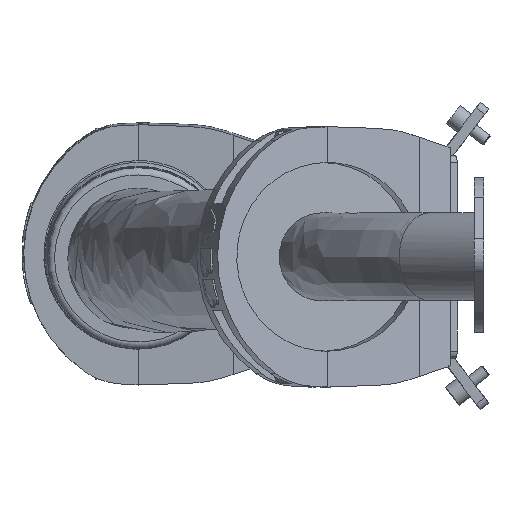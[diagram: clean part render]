
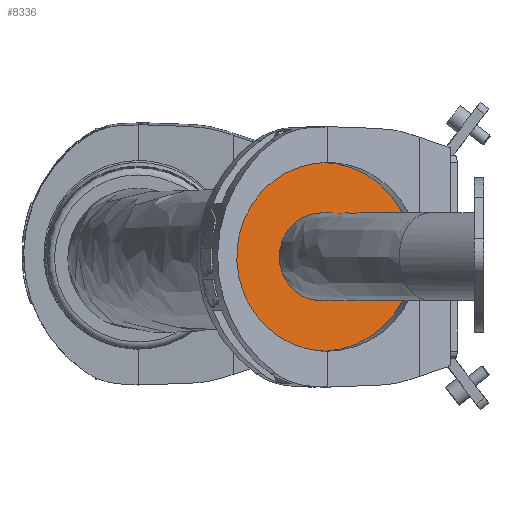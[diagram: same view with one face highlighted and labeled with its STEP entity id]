
A CAD part, left-side view. The second image highlights one B-rep face of the part: STEP entity #8336.
In plain terms, the highlighted planar face has unit normal (-0.966, -0.259, 0).
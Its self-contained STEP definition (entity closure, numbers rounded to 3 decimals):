
#742 = FACE_OUTER_BOUND ( 'NONE', #4382, .T. ) ;
#3249 = CIRCLE ( 'NONE', #4226, 25. ) ;
#4226 = AXIS2_PLACEMENT_3D ( 'NONE', #16318, #14814, #11788 ) ;
#4382 = EDGE_LOOP ( 'NONE', ( #7891 ) ) ;
#5869 = VERTEX_POINT ( 'NONE', #7294 ) ;
#7294 = CARTESIAN_POINT ( 'NONE',  ( 915.325, 154.506, 2203.973 ) ) ;
#7320 = EDGE_CURVE ( 'NONE', #5869, #5869, #3249, .T. ) ;
#7891 = ORIENTED_EDGE ( 'NONE', *, *, #9849, .T. ) ;
#8262 = DIRECTION ( 'NONE',  ( 0.258, -0.964, 0.069 ) ) ;
#8336 = ADVANCED_FACE ( 'NONE', ( #13254, #742 ), #12945, .F. ) ;
#9012 = VERTEX_POINT ( 'NONE', #10923 ) ;
#9849 = EDGE_CURVE ( 'NONE', #9012, #9012, #12166, .T. ) ;
#10010 = DIRECTION ( 'NONE',  ( 0.966, 0.259, 0. ) ) ;
#10779 = CARTESIAN_POINT ( 'NONE',  ( 908.854, 178.654, 2203.973 ) ) ;
#10923 = CARTESIAN_POINT ( 'NONE',  ( 895.015, 230.304, 2200.265 ) ) ;
#11788 = DIRECTION ( 'NONE',  ( 0.259, -0.966, 0. ) ) ;
#11844 = EDGE_LOOP ( 'NONE', ( #17261 ) ) ;
#12166 = CIRCLE ( 'NONE', #17653, 53.6 ) ;
#12945 = PLANE ( 'NONE',  #18179 ) ;
#13254 = FACE_BOUND ( 'NONE', #11844, .T. ) ;
#14814 = DIRECTION ( 'NONE',  ( -0.966, -0.259, 0. ) ) ;
#14840 = CARTESIAN_POINT ( 'NONE',  ( 908.854, 178.654, 2203.973 ) ) ;
#15429 = DIRECTION ( 'NONE',  ( -0.258, 0.964, -0.069 ) ) ;
#16318 = CARTESIAN_POINT ( 'NONE',  ( 908.854, 178.654, 2203.973 ) ) ;
#17261 = ORIENTED_EDGE ( 'NONE', *, *, #7320, .F. ) ;
#17653 = AXIS2_PLACEMENT_3D ( 'NONE', #10779, #18849, #15429 ) ;
#18179 = AXIS2_PLACEMENT_3D ( 'NONE', #14840, #10010, #8262 ) ;
#18849 = DIRECTION ( 'NONE',  ( -0.966, -0.259, 0. ) ) ;
